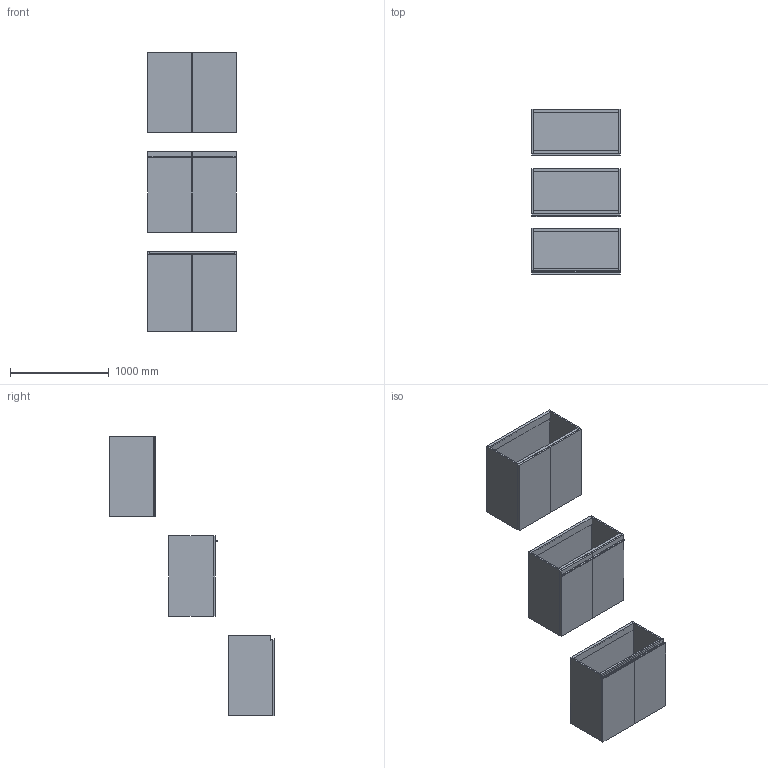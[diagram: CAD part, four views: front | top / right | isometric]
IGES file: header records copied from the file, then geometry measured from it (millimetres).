
Start section: Data from Parasolid IGES Translator 19.0.9, Copyright(c) 2006 Siemens PL M Software. All Rights Reserved.
Global section: file name: noorth-SI-H 81,2 D 47 W 90_8705.igs; native system: By Siemens PLM Incorporated; preprocessor: XPlus GENERIC/IGES 19.0.9; author: Noname; organization: Noname; date: 20200601.135851; units: metre
Bounding box: 900 x 1669.1 x 2832.01 mm (x, y, z)
Volume: 108109584.3 mm3; surface area: 16722650 mm2
Topology: 27 solids, 27 shells, 264 faces, 566 edges, 336 vertices
Faces by surface type: plane 180, extrusion 32, bspline 32, cylinder 20
